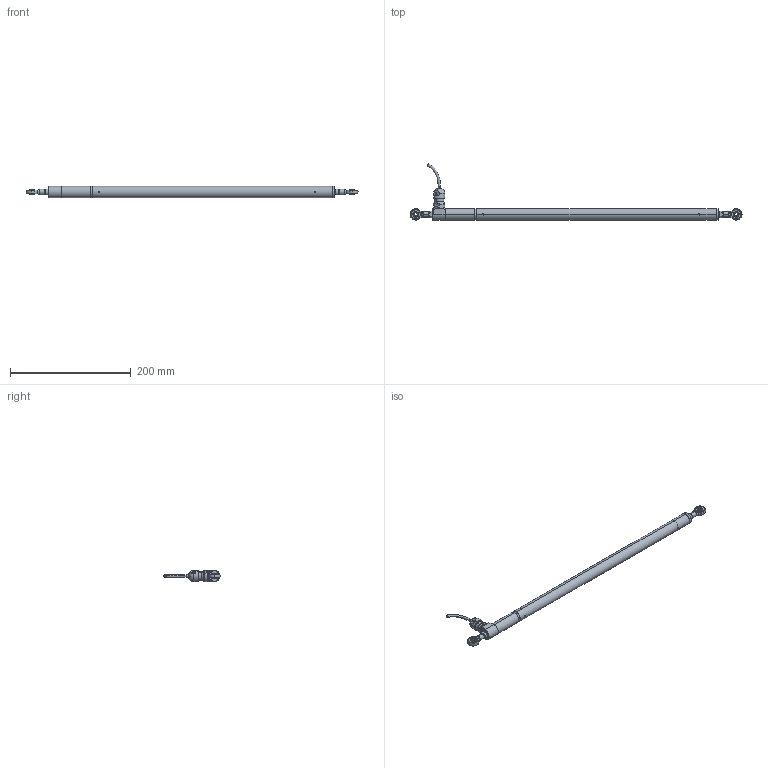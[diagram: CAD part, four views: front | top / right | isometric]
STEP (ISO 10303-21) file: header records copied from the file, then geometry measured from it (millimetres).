
FILE_DESCRIPTION (( 'STEP AP214' ), '1' );
FILE_NAME ('S119-350AI50NU.STEP', '2025-04-10T10:35:59', ( '' ), ( '' ), 'SwSTEP 2.0', 'SolidWorks 2023', '' );
FILE_SCHEMA (( 'AUTOMOTIVE_DESIGN' ));
Length unit declared in the file: millimetre
Products named in the file (1): S119-350AI50NU
Bounding box: 550 x 93.3 x 19.05 mm (x, y, z)
Surface area: 68443.4 mm2 (no closed solid volume)
Topology: 0 solids, 23 shells, 182 faces, 560 edges, 388 vertices
Faces by surface type: cylinder 73, plane 51, cone 26, torus 16, sphere 12, bspline 4
Entity records: 7448 total; most frequent: CARTESIAN_POINT 2713, DIRECTION 952, ORIENTED_EDGE 944, EDGE_CURVE 536, AXIS2_PLACEMENT_3D 405, VERTEX_POINT 376, CIRCLE 226, EDGE_LOOP 226
